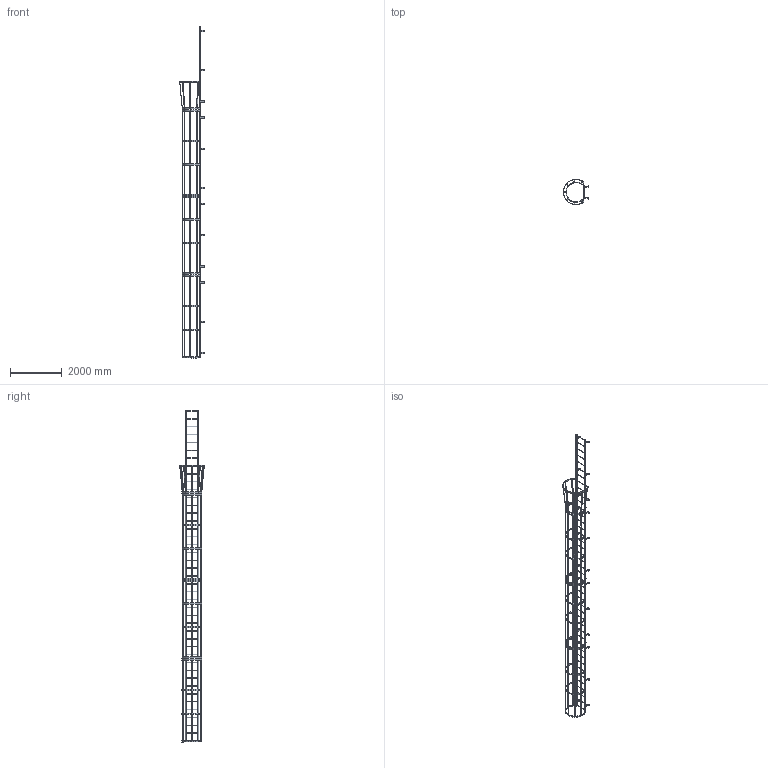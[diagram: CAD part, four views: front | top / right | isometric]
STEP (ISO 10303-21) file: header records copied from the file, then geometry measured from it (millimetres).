
FILE_DESCRIPTION(/* description */ (''),/* implementation_level */ '2;1');
FILE_NAME(/* name */ 'P:\MIKEL & KAREN\3570374 F43SC SIMPLIFIED PART.stp',/* time_stamp */ '2018-07-02T16:11:59-04:00',/* author */ ('stephanie'),/* organization */ (''),/* preprocessor_version */ 'ST-DEVELOPER v16.1',/* originating_system */ 'Autodesk Inventor 2016',/* authorisation */ '');
FILE_SCHEMA (('AUTOMOTIVE_DESIGN { 1 0 10303 214 3 1 1 }'));
Length unit declared in the file: centimetre
Products named in the file (1): 3570374 F43SC SIMPLIFIED PART
Bounding box: 974.15 x 977.88 x 12877.8 mm (x, y, z)
Volume: 45356882.3 mm3; surface area: 16202284.9 mm2
Topology: 57 solids, 57 shells, 1318 faces, 4022 edges, 2606 vertices
Faces by surface type: plane 882, cylinder 436
Full cylindrical faces by diameter (mm): 14.287 x30, 19.05 x43, 22.225 x86
Entity records: 45387 total; most frequent: ORIENTED_EDGE 7720, CARTESIAN_POINT 7556, DIRECTION 7478, EDGE_CURVE 3747, LINE 2654, VECTOR 2654, VERTEX_POINT 2490, AXIS2_PLACEMENT_3D 2412
